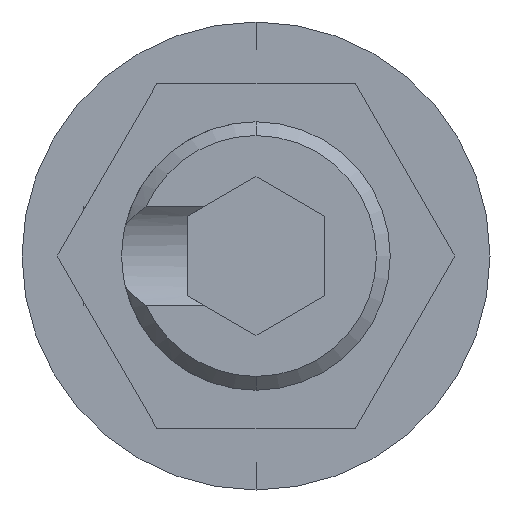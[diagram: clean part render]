
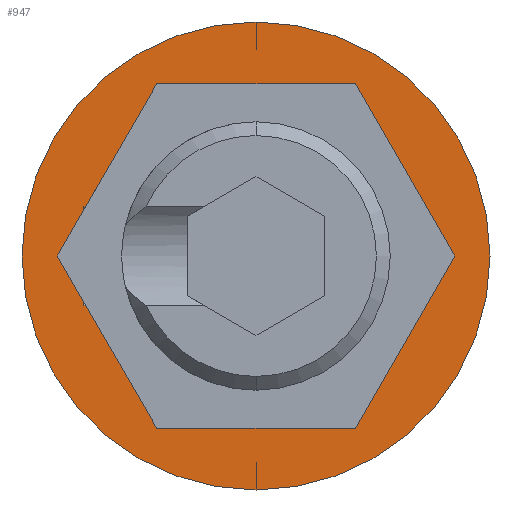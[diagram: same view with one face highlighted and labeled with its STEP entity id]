
A CAD part, front view. The second image highlights one B-rep face of the part: STEP entity #947.
In plain terms, the highlighted planar face has unit normal (0, -1, 0).
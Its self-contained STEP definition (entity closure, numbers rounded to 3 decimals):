
#13 = DIRECTION ( 'NONE',  ( 0., -1., 0. ) ) ;
#79 = PLANE ( 'NONE',  #1170 ) ;
#95 = DIRECTION ( 'NONE',  ( 0., 0., -1. ) ) ;
#108 = CARTESIAN_POINT ( 'NONE',  ( 0., 0., 0. ) ) ;
#263 = CARTESIAN_POINT ( 'NONE',  ( 2.887, 0., 0. ) ) ;
#264 = CARTESIAN_POINT ( 'NONE',  ( -2.887, 0., 0. ) ) ;
#266 = CARTESIAN_POINT ( 'NONE',  ( 1.443, 0., 2.5 ) ) ;
#275 = CARTESIAN_POINT ( 'NONE',  ( 0., 0., 3.4 ) ) ;
#276 = CARTESIAN_POINT ( 'NONE',  ( -2.474, 0., -0.714 ) ) ;
#291 = CARTESIAN_POINT ( 'NONE',  ( -2.474, 0., 0.714 ) ) ;
#293 = CARTESIAN_POINT ( 'NONE',  ( -2.5, 0., -0.67 ) ) ;
#297 = CARTESIAN_POINT ( 'NONE',  ( -2.5, 0., 0.67 ) ) ;
#347 = CARTESIAN_POINT ( 'NONE',  ( -1.443, 0., 2.5 ) ) ;
#351 = DIRECTION ( 'NONE',  ( 0., 0., 1. ) ) ;
#353 = DIRECTION ( 'NONE',  ( 0.5, 0., -0.866 ) ) ;
#355 = CARTESIAN_POINT ( 'NONE',  ( 2.887, 0., 0. ) ) ;
#359 = CARTESIAN_POINT ( 'NONE',  ( -2.887, 0., 0. ) ) ;
#362 = DIRECTION ( 'NONE',  ( 0., 0., -1. ) ) ;
#364 = CARTESIAN_POINT ( 'NONE',  ( -2.5, 0., -0.714 ) ) ;
#365 = DIRECTION ( 'NONE',  ( 0.5, 0., -0.866 ) ) ;
#366 = DIRECTION ( 'NONE',  ( -0.5, 0., -0.866 ) ) ;
#369 = DIRECTION ( 'NONE',  ( 1., 0., 0. ) ) ;
#372 = CARTESIAN_POINT ( 'NONE',  ( -2.887, 0., 0. ) ) ;
#376 = CARTESIAN_POINT ( 'NONE',  ( -2.5, 0., 0. ) ) ;
#378 = CARTESIAN_POINT ( 'NONE',  ( -1.443, 0., -2.5 ) ) ;
#379 = DIRECTION ( 'NONE',  ( -0.5, 0., 0.866 ) ) ;
#381 = DIRECTION ( 'NONE',  ( 1., 0., 0. ) ) ;
#382 = DIRECTION ( 'NONE',  ( 0., -1., 0. ) ) ;
#384 = CARTESIAN_POINT ( 'NONE',  ( 0., 0., 0. ) ) ;
#496 = LINE ( 'NONE', #1648, #499 ) ;
#499 = VECTOR ( 'NONE', #1575, 1000. ) ;
#504 = LINE ( 'NONE', #1817, #507 ) ;
#507 = VECTOR ( 'NONE', #1806, 1000. ) ;
#655 = CIRCLE ( 'NONE', #1216, 3.4 ) ;
#700 = LINE ( 'NONE', #1729, #703 ) ;
#702 = LINE ( 'NONE', #1706, #705 ) ;
#703 = VECTOR ( 'NONE', #1731, 1000. ) ;
#705 = VECTOR ( 'NONE', #1725, 1000. ) ;
#711 = LINE ( 'NONE', #1733, #713 ) ;
#713 = VECTOR ( 'NONE', #1693, 1000. ) ;
#714 = LINE ( 'NONE', #359, #716 ) ;
#716 = VECTOR ( 'NONE', #365, 1000. ) ;
#717 = LINE ( 'NONE', #376, #733 ) ;
#719 = LINE ( 'NONE', #347, #722 ) ;
#721 = LINE ( 'NONE', #355, #724 ) ;
#722 = VECTOR ( 'NONE', #366, 1000. ) ;
#723 = CIRCLE ( 'NONE', #1177, 3.4 ) ;
#724 = VECTOR ( 'NONE', #379, 1000. ) ;
#725 = LINE ( 'NONE', #378, #727 ) ;
#726 = LINE ( 'NONE', #372, #729 ) ;
#727 = VECTOR ( 'NONE', #369, 1000. ) ;
#728 = LINE ( 'NONE', #364, #731 ) ;
#729 = VECTOR ( 'NONE', #353, 1000. ) ;
#731 = VECTOR ( 'NONE', #381, 1000. ) ;
#733 = VECTOR ( 'NONE', #351, 1000. ) ;
#845 = CARTESIAN_POINT ( 'NONE',  ( -1.443, 0., 2.5 ) ) ;
#880 = CARTESIAN_POINT ( 'NONE',  ( -2.5, 0., 0.714 ) ) ;
#881 = CARTESIAN_POINT ( 'NONE',  ( 1.443, 0., -2.5 ) ) ;
#893 = CARTESIAN_POINT ( 'NONE',  ( -1.443, 0., -2.5 ) ) ;
#947 = ADVANCED_FACE ( 'NONE', ( #1475, #1476 ), #79, .T. ) ;
#1170 = AXIS2_PLACEMENT_3D ( 'NONE', #108, #13, #95 ) ;
#1177 = AXIS2_PLACEMENT_3D ( 'NONE', #384, #382, #362 ) ;
#1216 = AXIS2_PLACEMENT_3D ( 'NONE', #1542, #1552, #1554 ) ;
#1270 = EDGE_CURVE ( 'NONE', #1972, #1907, #496, .T. ) ;
#1277 = EDGE_CURVE ( 'NONE', #1904, #1979, #504, .T. ) ;
#1391 = EDGE_CURVE ( 'NONE', #1986, #1978, #655, .T. ) ;
#1422 = EDGE_CURVE ( 'NONE', #1843, #1980, #700, .T. ) ;
#1423 = EDGE_CURVE ( 'NONE', #1843, #1908, #702, .T. ) ;
#1429 = EDGE_CURVE ( 'NONE', #1854, #1908, #711, .T. ) ;
#1431 = EDGE_CURVE ( 'NONE', #1980, #1868, #714, .T. ) ;
#1434 = EDGE_CURVE ( 'NONE', #1907, #1854, #719, .T. ) ;
#1435 = EDGE_CURVE ( 'NONE', #1979, #1972, #721, .T. ) ;
#1436 = EDGE_CURVE ( 'NONE', #1978, #1986, #723, .T. ) ;
#1437 = EDGE_CURVE ( 'NONE', #1906, #1904, #725, .T. ) ;
#1438 = EDGE_CURVE ( 'NONE', #1973, #1906, #726, .T. ) ;
#1439 = EDGE_CURVE ( 'NONE', #1985, #1973, #728, .T. ) ;
#1440 = EDGE_CURVE ( 'NONE', #1985, #1868, #717, .T. ) ;
#1441 = CARTESIAN_POINT ( 'NONE',  ( -2.5, 0., -0.714 ) ) ;
#1442 = CARTESIAN_POINT ( 'NONE',  ( 0., 0., -3.4 ) ) ;
#1475 = FACE_BOUND ( 'NONE', #1828, .T. ) ;
#1476 = FACE_OUTER_BOUND ( 'NONE', #1877, .T. ) ;
#1542 = CARTESIAN_POINT ( 'NONE',  ( 0., 0., 0. ) ) ;
#1552 = DIRECTION ( 'NONE',  ( 0., -1., 0. ) ) ;
#1554 = DIRECTION ( 'NONE',  ( 0., 0., -1. ) ) ;
#1575 = DIRECTION ( 'NONE',  ( -1., 0., 0. ) ) ;
#1648 = CARTESIAN_POINT ( 'NONE',  ( 1.443, 0., 2.5 ) ) ;
#1693 = DIRECTION ( 'NONE',  ( -1., 0., 0. ) ) ;
#1706 = CARTESIAN_POINT ( 'NONE',  ( -2.5, 0., 0. ) ) ;
#1725 = DIRECTION ( 'NONE',  ( 0., 0., 1. ) ) ;
#1729 = CARTESIAN_POINT ( 'NONE',  ( -1.443, 0., 2.5 ) ) ;
#1731 = DIRECTION ( 'NONE',  ( -0.5, 0., -0.866 ) ) ;
#1733 = CARTESIAN_POINT ( 'NONE',  ( -2.5, 0., 0.714 ) ) ;
#1806 = DIRECTION ( 'NONE',  ( 0.5, 0., 0.866 ) ) ;
#1817 = CARTESIAN_POINT ( 'NONE',  ( 1.443, 0., -2.5 ) ) ;
#1828 = EDGE_LOOP ( 'NONE', ( #2330, #2296, #2295, #2148, #2124, #2152, #2234, #2345, #2401, #2336, #2371, #2355 ) ) ;
#1843 = VERTEX_POINT ( 'NONE', #297 ) ;
#1854 = VERTEX_POINT ( 'NONE', #291 ) ;
#1868 = VERTEX_POINT ( 'NONE', #293 ) ;
#1877 = EDGE_LOOP ( 'NONE', ( #2145, #2383 ) ) ;
#1904 = VERTEX_POINT ( 'NONE', #881 ) ;
#1906 = VERTEX_POINT ( 'NONE', #893 ) ;
#1907 = VERTEX_POINT ( 'NONE', #845 ) ;
#1908 = VERTEX_POINT ( 'NONE', #880 ) ;
#1972 = VERTEX_POINT ( 'NONE', #266 ) ;
#1973 = VERTEX_POINT ( 'NONE', #276 ) ;
#1978 = VERTEX_POINT ( 'NONE', #275 ) ;
#1979 = VERTEX_POINT ( 'NONE', #263 ) ;
#1980 = VERTEX_POINT ( 'NONE', #264 ) ;
#1985 = VERTEX_POINT ( 'NONE', #1441 ) ;
#1986 = VERTEX_POINT ( 'NONE', #1442 ) ;
#2124 = ORIENTED_EDGE ( 'NONE', *, *, #1423, .T. ) ;
#2145 = ORIENTED_EDGE ( 'NONE', *, *, #1391, .T. ) ;
#2148 = ORIENTED_EDGE ( 'NONE', *, *, #1422, .F. ) ;
#2152 = ORIENTED_EDGE ( 'NONE', *, *, #1429, .F. ) ;
#2234 = ORIENTED_EDGE ( 'NONE', *, *, #1434, .F. ) ;
#2295 = ORIENTED_EDGE ( 'NONE', *, *, #1431, .F. ) ;
#2296 = ORIENTED_EDGE ( 'NONE', *, *, #1440, .T. ) ;
#2330 = ORIENTED_EDGE ( 'NONE', *, *, #1439, .F. ) ;
#2336 = ORIENTED_EDGE ( 'NONE', *, *, #1277, .F. ) ;
#2345 = ORIENTED_EDGE ( 'NONE', *, *, #1270, .F. ) ;
#2355 = ORIENTED_EDGE ( 'NONE', *, *, #1438, .F. ) ;
#2371 = ORIENTED_EDGE ( 'NONE', *, *, #1437, .F. ) ;
#2383 = ORIENTED_EDGE ( 'NONE', *, *, #1436, .T. ) ;
#2401 = ORIENTED_EDGE ( 'NONE', *, *, #1435, .F. ) ;
